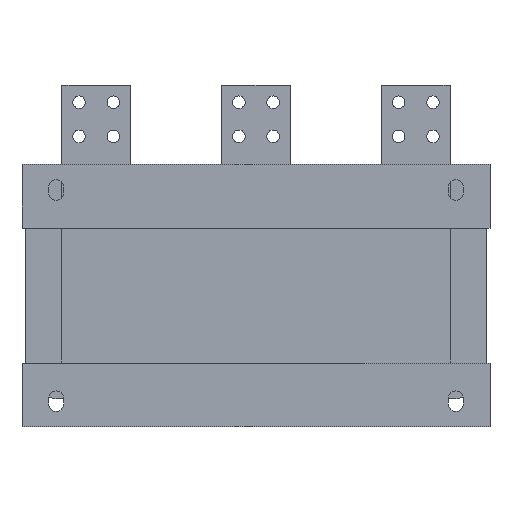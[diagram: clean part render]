
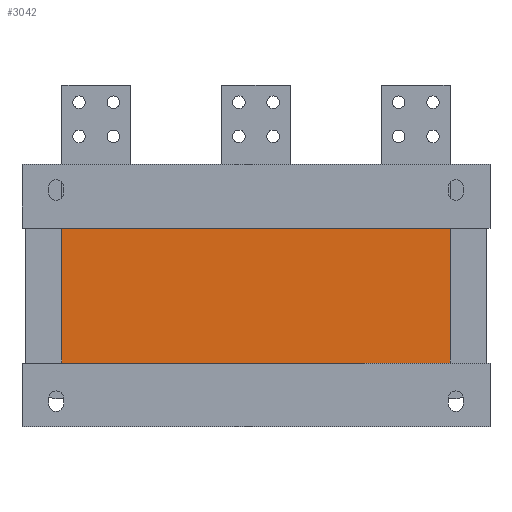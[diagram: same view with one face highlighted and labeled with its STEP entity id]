
A CAD part, front view. The second image highlights one B-rep face of the part: STEP entity #3042.
In plain terms, the highlighted planar face has unit normal (0, -1, 0).
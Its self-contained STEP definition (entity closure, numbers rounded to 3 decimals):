
#128=PLANE('',#3298);
#270=FACE_OUTER_BOUND('',#472,.T.);
#472=EDGE_LOOP('',(#2481,#2482,#2483,#2484));
#726=LINE('',#4755,#1062);
#727=LINE('',#4757,#1063);
#728=LINE('',#4759,#1064);
#729=LINE('',#4760,#1065);
#1062=VECTOR('',#3898,10.);
#1063=VECTOR('',#3899,10.);
#1064=VECTOR('',#3900,10.);
#1065=VECTOR('',#3901,10.);
#1497=VERTEX_POINT('',#4753);
#1498=VERTEX_POINT('',#4754);
#1499=VERTEX_POINT('',#4756);
#1500=VERTEX_POINT('',#4758);
#1862=EDGE_CURVE('',#1497,#1498,#726,.T.);
#1863=EDGE_CURVE('',#1499,#1497,#727,.T.);
#1864=EDGE_CURVE('',#1500,#1499,#728,.T.);
#1865=EDGE_CURVE('',#1498,#1500,#729,.T.);
#2481=ORIENTED_EDGE('',*,*,#1862,.F.);
#2482=ORIENTED_EDGE('',*,*,#1863,.F.);
#2483=ORIENTED_EDGE('',*,*,#1864,.F.);
#2484=ORIENTED_EDGE('',*,*,#1865,.F.);
#3042=ADVANCED_FACE('',(#270),#128,.F.);
#3298=AXIS2_PLACEMENT_3D('',#4752,#3896,#3897);
#3896=DIRECTION('center_axis',(0.,1.,0.));
#3897=DIRECTION('ref_axis',(0.,0.,1.));
#3898=DIRECTION('',(1.,0.,0.));
#3899=DIRECTION('',(0.,0.,1.));
#3900=DIRECTION('',(-1.,0.,0.));
#3901=DIRECTION('',(0.,0.,-1.));
#4752=CARTESIAN_POINT('Origin',(0.,2.,0.));
#4753=CARTESIAN_POINT('',(-170.,2.,59.));
#4754=CARTESIAN_POINT('',(170.,2.,59.));
#4755=CARTESIAN_POINT('',(170.,2.,59.));
#4756=CARTESIAN_POINT('',(-170.,2.,-59.));
#4757=CARTESIAN_POINT('',(-170.,2.,-29.5));
#4758=CARTESIAN_POINT('',(170.,2.,-59.));
#4759=CARTESIAN_POINT('',(-170.,2.,-59.));
#4760=CARTESIAN_POINT('',(170.,2.,29.5));
